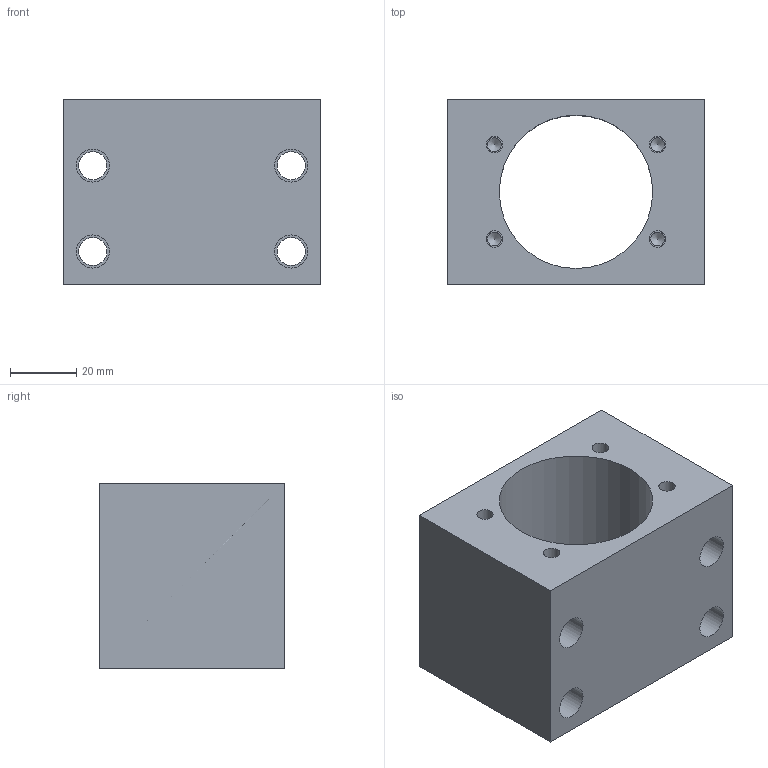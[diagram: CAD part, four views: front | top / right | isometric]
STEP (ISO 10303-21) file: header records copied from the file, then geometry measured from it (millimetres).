
FILE_DESCRIPTION(/* description */ (''),/* implementation_level */ '2;1');
FILE_NAME(/* name */ 'NH25C.stp',/* time_stamp */ '2017-01-05T15:46:27+08:00',/* author */ (''),/* organization */ (''),/* preprocessor_version */ 'ST-DEVELOPER v15',/* originating_system */ 'SIEMENS PLM Software NX 8.5',/* authorisation */ '');
FILE_SCHEMA (('AUTOMOTIVE_DESIGN { 1 0 10303 214 3 1 1 1 }'));
Length unit declared in the file: millimetre
Products named in the file (1): Admi1CF0E4A5a63y
Bounding box: 78 x 56 x 56 mm (x, y, z)
Volume: 131086.7 mm3; surface area: 35772.4 mm2
Topology: 1 solids, 1 shells, 43 faces, 92 edges, 63 vertices
Faces by surface type: cylinder 21, plane 18, cone 4
Full cylindrical faces by diameter (mm): 4.2 x4, 5 x4, 8.5 x4, 10 x4, 14 x4, 46.4 x1
Entity records: 1014 total; most frequent: DIRECTION 184, CARTESIAN_POINT 152, ORIENTED_EDGE 108, FACE_BOUND 92, EDGE_LOOP 90, AXIS2_PLACEMENT_3D 86, VERTEX_POINT 54, EDGE_CURVE 54
